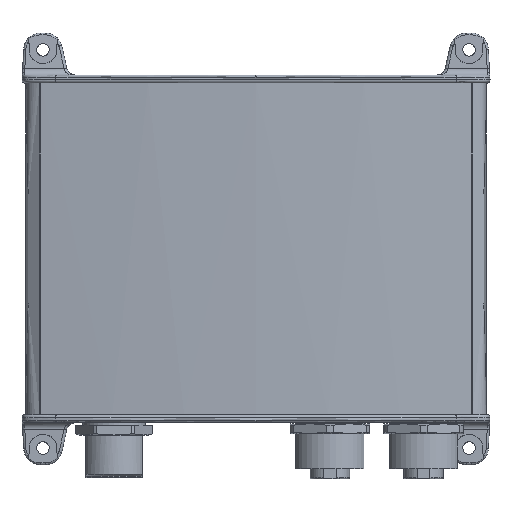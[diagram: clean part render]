
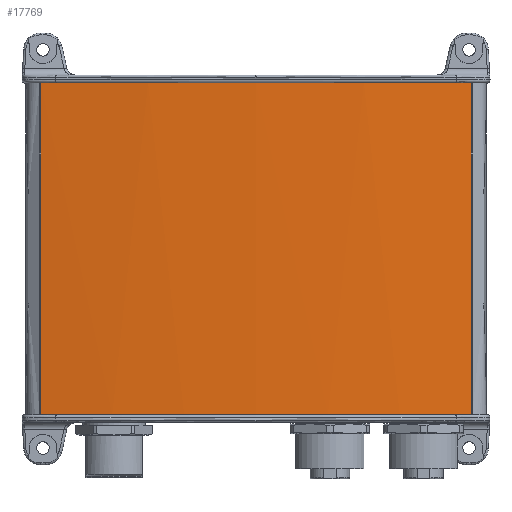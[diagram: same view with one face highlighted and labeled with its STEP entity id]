
A CAD part, top view. The second image highlights one B-rep face of the part: STEP entity #17769.
In plain terms, the highlighted cylindrical face has radius 597.11 mm (diameter 1194.22 mm), a partial arc.
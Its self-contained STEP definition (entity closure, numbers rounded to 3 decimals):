
#829 = CARTESIAN_POINT ( 'NONE',  ( 75.827, 190.179, 47.043 ) ) ;
#1852 = AXIS2_PLACEMENT_3D ( 'NONE', #11861, #21485, #16979 ) ;
#2392 = EDGE_CURVE ( 'NONE', #20345, #21527, #18698, .T. ) ;
#2829 = ORIENTED_EDGE ( 'NONE', *, *, #2392, .F. ) ;
#5162 = EDGE_CURVE ( 'NONE', #22891, #28727, #21950, .T. ) ;
#6003 = CARTESIAN_POINT ( 'NONE',  ( 0., -59.5, -545.233 ) ) ;
#6605 = ORIENTED_EDGE ( 'NONE', *, *, #5162, .F. ) ;
#7052 = DIRECTION ( 'NONE',  ( 0., 1., 0. ) ) ;
#8355 = CARTESIAN_POINT ( 'NONE',  ( -75.827, 57.3, 47.043 ) ) ;
#9099 = VECTOR ( 'NONE', #7052, 1000. ) ;
#9222 = FACE_OUTER_BOUND ( 'NONE', #17255, .T. ) ;
#11102 = ORIENTED_EDGE ( 'NONE', *, *, #19802, .T. ) ;
#11861 = CARTESIAN_POINT ( 'NONE',  ( 0., 57.3, -545.233 ) ) ;
#13689 = AXIS2_PLACEMENT_3D ( 'NONE', #16520, #14340, #14036 ) ;
#14036 = DIRECTION ( 'NONE',  ( -1., 0., 0. ) ) ;
#14340 = DIRECTION ( 'NONE',  ( 0., -1., 0. ) ) ;
#14655 = VECTOR ( 'NONE', #26753, 1000. ) ;
#15865 = EDGE_CURVE ( 'NONE', #28727, #20345, #16495, .T. ) ;
#16495 = CIRCLE ( 'NONE', #24400, 597.11 ) ;
#16520 = CARTESIAN_POINT ( 'NONE',  ( 0., 190.179, -545.233 ) ) ;
#16979 = DIRECTION ( 'NONE',  ( 0., 0., -1. ) ) ;
#17255 = EDGE_LOOP ( 'NONE', ( #2829, #29032, #6605, #11102 ) ) ;
#17769 = ADVANCED_FACE ( 'NONE', ( #9222 ), #18694, .T. ) ;
#17995 = CARTESIAN_POINT ( 'NONE',  ( 75.827, 57.3, 47.043 ) ) ;
#18427 = DIRECTION ( 'NONE',  ( 0., 0., -1. ) ) ;
#18694 = CYLINDRICAL_SURFACE ( 'NONE', #13689, 597.11 ) ;
#18698 = LINE ( 'NONE', #28138, #9099 ) ;
#18716 = CIRCLE ( 'NONE', #1852, 597.11 ) ;
#19802 = EDGE_CURVE ( 'NONE', #22891, #21527, #18716, .T. ) ;
#20345 = VERTEX_POINT ( 'NONE', #30593 ) ;
#21485 = DIRECTION ( 'NONE',  ( 0., -1., 0. ) ) ;
#21527 = VERTEX_POINT ( 'NONE', #8355 ) ;
#21950 = LINE ( 'NONE', #829, #14655 ) ;
#22891 = VERTEX_POINT ( 'NONE', #17995 ) ;
#24400 = AXIS2_PLACEMENT_3D ( 'NONE', #6003, #25696, #18427 ) ;
#25696 = DIRECTION ( 'NONE',  ( 0., -1., 0. ) ) ;
#26753 = DIRECTION ( 'NONE',  ( 0., -1., 0. ) ) ;
#27057 = CARTESIAN_POINT ( 'NONE',  ( 75.827, -59.5, 47.043 ) ) ;
#28138 = CARTESIAN_POINT ( 'NONE',  ( -75.827, 190.179, 47.043 ) ) ;
#28727 = VERTEX_POINT ( 'NONE', #27057 ) ;
#29032 = ORIENTED_EDGE ( 'NONE', *, *, #15865, .F. ) ;
#30593 = CARTESIAN_POINT ( 'NONE',  ( -75.827, -59.5, 47.043 ) ) ;
